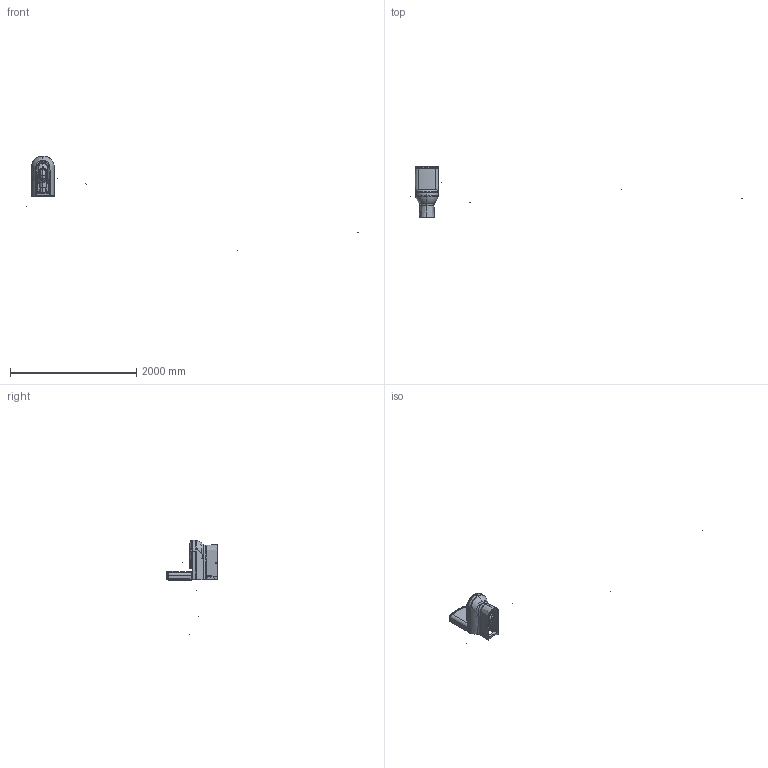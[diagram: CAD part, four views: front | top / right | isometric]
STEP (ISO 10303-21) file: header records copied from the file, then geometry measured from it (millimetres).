
FILE_DESCRIPTION (( 'STEP AP203' ), '1' );
FILE_NAME ('lt361-00cb00e-0000-nv410-00cb00e-0000-kc2203-01-0000e.STEP', '2023-05-31T14:16:42', ( '' ), ( '' ), 'SwSTEP 2.0', 'SolidWorks 2023', '' );
FILE_SCHEMA (( 'CONFIG_CONTROL_DESIGN' ));
Products named in the file (1): lt361-00cb00e-0000-nv410-00cb00e-0000-kc2203-01-0000e
Bounding box: 5255.03 x 820.18 x 1865.81 mm (x, y, z)
Surface area: 3396484.3 mm2 (no closed solid volume)
Topology: 0 solids, 129 shells, 5465 faces, 13811 edges, 8563 vertices
Faces by surface type: cylinder 2488, bspline 1083, plane 1036, torus 488, sphere 188, cone 182
Entity records: 909940 total; most frequent: CARTESIAN_POINT 802669, ORIENTED_EDGE 27165, DIRECTION 15336, EDGE_CURVE 13621, VERTEX_POINT 8538, B_SPLINE_CURVE_WITH_KNOTS 7315, AXIS2_PLACEMENT_3D 6364, EDGE_LOOP 5689
